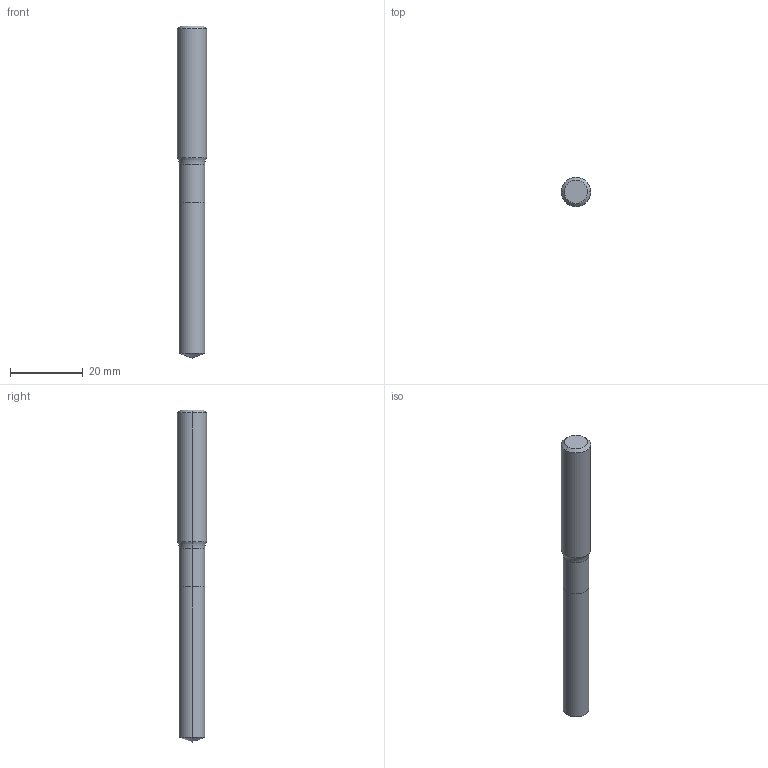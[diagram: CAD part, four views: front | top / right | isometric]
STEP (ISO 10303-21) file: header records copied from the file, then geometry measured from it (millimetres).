
FILE_DESCRIPTION (( 'STEP AP214' ), '1' );
FILE_NAME ('905.070.00_3D-model.step', '2022-02-24T17:44:49', ( '' ), ( '' ), 'SwSTEP 2.0', 'SolidWorks 2020', '' );
FILE_SCHEMA (( 'AUTOMOTIVE_DESIGN' ));
Length unit declared in the file: millimetre
Products named in the file (3): NOCUT-3D^Baugr56; 905.070.00_3D-model; CUT-3D^Baugr56
Assembly tree (2 placements, depth 2):
  905.070.00_3D-model
    CUT-3D^Baugr56
    NOCUT-3D^Baugr56
Bounding box: 8 x 8 x 91 mm (x, y, z)
Volume: 3894 mm3; surface area: 2246.1 mm2
Topology: 2 solids, 2 shells, 15 faces, 28 edges, 15 vertices
Faces by surface type: cylinder 6, cone 4, plane 3, torus 2
Entity records: 482 total; most frequent: DIRECTION 88, CARTESIAN_POINT 64, ORIENTED_EDGE 52, AXIS2_PLACEMENT_3D 39, EDGE_CURVE 26, CIRCLE 16, ADVANCED_FACE 15, FACE_OUTER_BOUND 15
